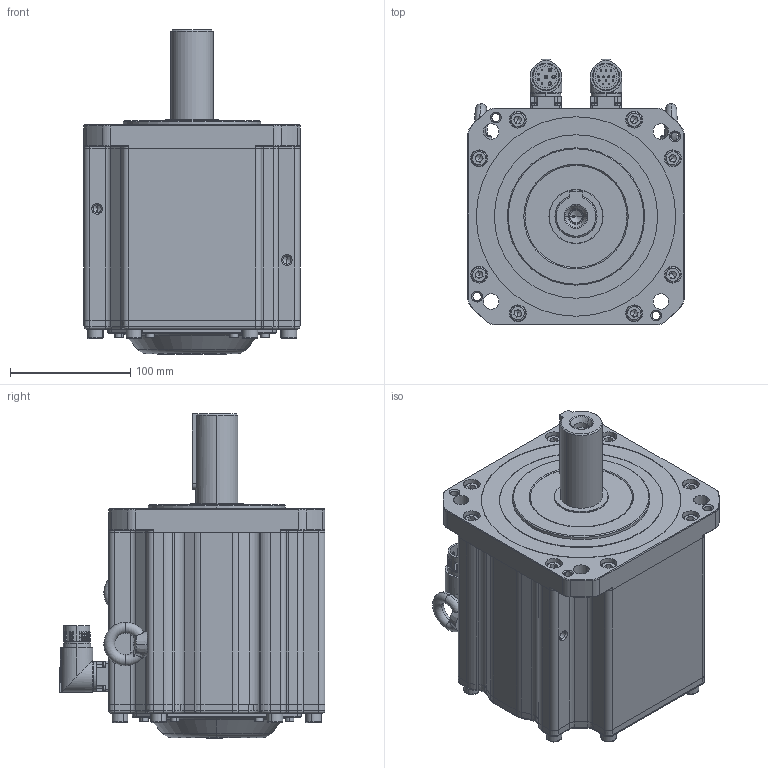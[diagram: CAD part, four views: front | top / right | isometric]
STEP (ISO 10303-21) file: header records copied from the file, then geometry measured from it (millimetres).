
FILE_DESCRIPTION (( 'STEP AP203' ), '1' );
FILE_NAME ('MC20-180-3M15-N332-0¡õPK-NNNN.STEP', '2025-05-05T03:31:39', ( '' ), ( '' ), 'SwSTEP 2.0', 'SolidWorks 2014', '' );
FILE_SCHEMA (( 'CONFIG_CONTROL_DESIGN' ));
Length unit declared in the file: millimetre
Products named in the file (1): MC20-180-3M15-N332-0¡õPK-NNNN
Bounding box: 180 x 221.35 x 269.95 mm (x, y, z)
Volume: 3950839.6 mm3; surface area: 507630 mm2
Topology: 40 solids, 42 shells, 2190 faces, 5098 edges, 3031 vertices
Faces by surface type: plane 883, cylinder 569, cone 483, torus 208, bspline 47
Entity records: 63884 total; most frequent: CARTESIAN_POINT 13740, DIRECTION 11030, ORIENTED_EDGE 9944, EDGE_CURVE 4972, AXIS2_PLACEMENT_3D 4270, VERTEX_POINT 3031, VECTOR 2490, LINE 2490
